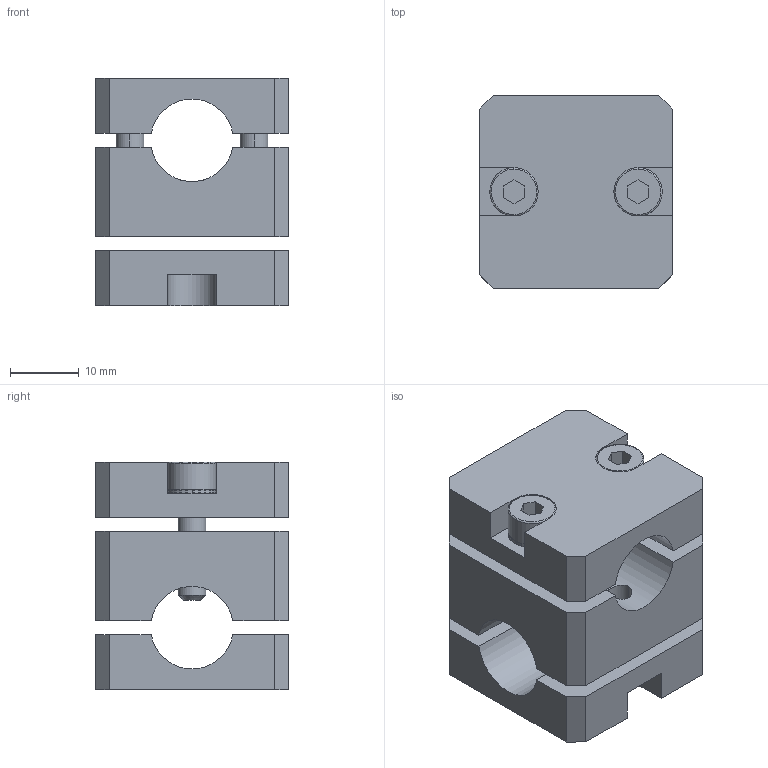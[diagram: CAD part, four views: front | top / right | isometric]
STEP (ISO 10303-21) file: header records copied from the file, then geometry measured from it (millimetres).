
FILE_DESCRIPTION (( 'STEP AP214' ), '1' );
FILE_NAME ('SMBT2-1212.STEP', '2019-11-06T05:40:39', ( '微软用户' ), ( '微软中国' ), 'SwSTEP 2.0', 'SolidWorks 2016', '' );
FILE_SCHEMA (( 'AUTOMOTIVE_DESIGN' ));
Length unit declared in the file: millimetre
Products named in the file (1): SMBT2-1212
Bounding box: 28 x 28 x 33 mm (x, y, z)
Volume: 16669.8 mm3; surface area: 9510.8 mm2
Topology: 7 solids, 7 shells, 511 faces, 1455 edges, 962 vertices
Faces by surface type: plane 454, cylinder 49, cone 4, bspline 4
Entity records: 22850 total; most frequent: CARTESIAN_POINT 3385, DIRECTION 2917, ORIENTED_EDGE 2910, EDGE_CURVE 1455, LINE 977, VECTOR 977, AXIS2_PLACEMENT_3D 970, VERTEX_POINT 962
